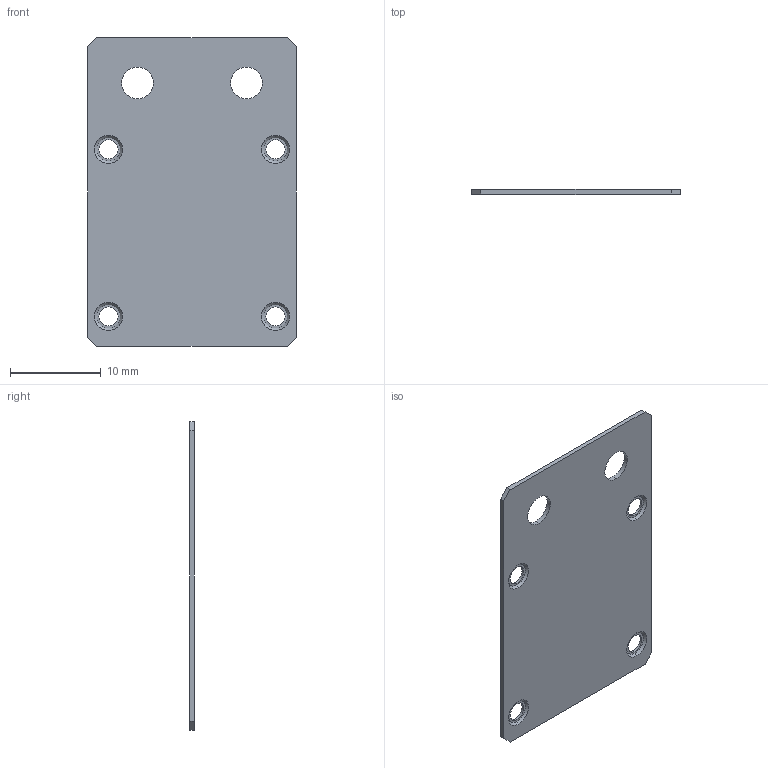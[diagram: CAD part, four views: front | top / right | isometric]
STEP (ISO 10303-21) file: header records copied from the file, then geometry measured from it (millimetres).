
FILE_DESCRIPTION (( 'STEP AP214' ), '1' );
FILE_NAME ('Žæ•tƒtƒ‰ƒ“ƒW.STEP', '2025-01-28T00:55:01', ( '' ), ( '' ), 'SwSTEP 2.0', 'SolidWorks 2023', '' );
FILE_SCHEMA (( 'AUTOMOTIVE_DESIGN' ));
Length unit declared in the file: millimetre
Products named in the file (1): 取付フランジ
Bounding box: 23 x 0.5 x 34 mm (x, y, z)
Volume: 370.5 mm3; surface area: 1570.9 mm2
Topology: 1 solids, 1 shells, 34 faces, 84 edges, 56 vertices
Faces by surface type: plane 14, cylinder 12, cone 8
Entity records: 1075 total; most frequent: DIRECTION 194, CARTESIAN_POINT 175, ORIENTED_EDGE 168, EDGE_CURVE 84, AXIS2_PLACEMENT_3D 75, VERTEX_POINT 56, EDGE_LOOP 50, VECTOR 44
